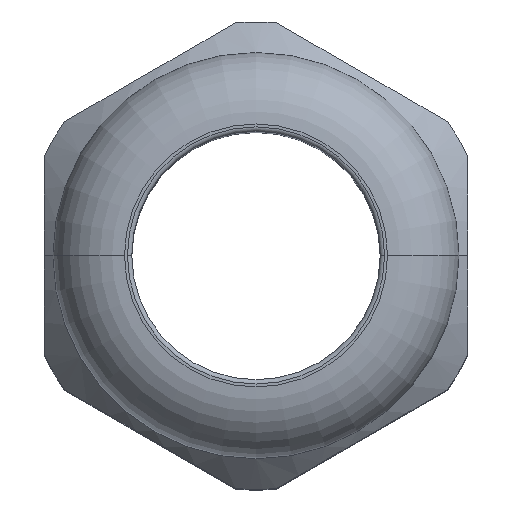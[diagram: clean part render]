
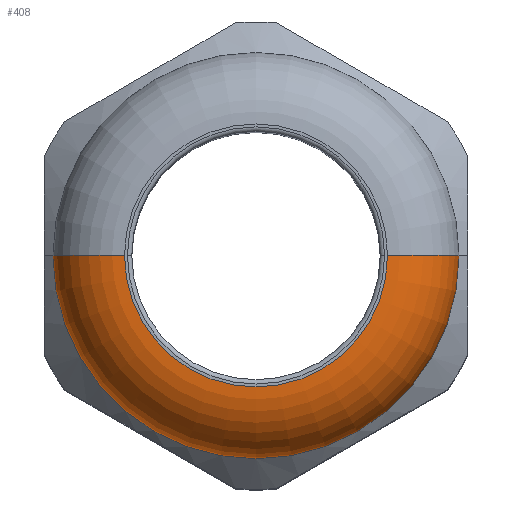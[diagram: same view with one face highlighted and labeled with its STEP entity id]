
A CAD part, top view. The second image highlights one B-rep face of the part: STEP entity #408.
In plain terms, the highlighted toroidal (fillet/blend) face has major radius 9 mm and minor radius 4.9 mm.
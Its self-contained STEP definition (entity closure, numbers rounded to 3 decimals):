
#13 = EDGE_CURVE ( 'NONE', #259, #21, #977, .T. ) ;
#17 = VERTEX_POINT ( 'NONE', #965 ) ;
#21 = VERTEX_POINT ( 'NONE', #1005 ) ;
#35 = VERTEX_POINT ( 'NONE', #847 ) ;
#259 = VERTEX_POINT ( 'NONE', #1457 ) ;
#298 = EDGE_CURVE ( 'NONE', #35, #17, #1399, .T. ) ;
#371 = EDGE_LOOP ( 'NONE', ( #409, #411, #413, #425 ) ) ;
#374 = EDGE_CURVE ( 'NONE', #21, #17, #1494, .T. ) ;
#408 = ADVANCED_FACE ( 'NONE', ( #1741 ), #1740, .T. ) ;
#409 = ORIENTED_EDGE ( 'NONE', *, *, #13, .F. ) ;
#411 = ORIENTED_EDGE ( 'NONE', *, *, #412, .T. ) ;
#412 = EDGE_CURVE ( 'NONE', #259, #35, #1635, .T. ) ;
#413 = ORIENTED_EDGE ( 'NONE', *, *, #298, .T. ) ;
#425 = ORIENTED_EDGE ( 'NONE', *, *, #374, .F. ) ;
#847 = CARTESIAN_POINT ( 'NONE',  ( -9., 0., 50. ) ) ;
#965 = CARTESIAN_POINT ( 'NONE',  ( -13.9, 0., 45.1 ) ) ;
#973 = DIRECTION ( 'NONE',  ( -1., 0., 0. ) ) ;
#974 = DIRECTION ( 'NONE',  ( 0., 1., 0. ) ) ;
#975 = CARTESIAN_POINT ( 'NONE',  ( 9., 0., 45.1 ) ) ;
#976 = AXIS2_PLACEMENT_3D ( 'NONE', #975, #974, #973 ) ;
#977 = CIRCLE ( 'NONE', #976, 4.9 ) ;
#1005 = CARTESIAN_POINT ( 'NONE',  ( 13.9, 0., 45.1 ) ) ;
#1395 = DIRECTION ( 'NONE',  ( 0., 0., -1. ) ) ;
#1396 = DIRECTION ( 'NONE',  ( 0., -1., 0. ) ) ;
#1397 = CARTESIAN_POINT ( 'NONE',  ( -9., 0., 45.1 ) ) ;
#1398 = AXIS2_PLACEMENT_3D ( 'NONE', #1397, #1396, #1395 ) ;
#1399 = CIRCLE ( 'NONE', #1398, 4.9 ) ;
#1457 = CARTESIAN_POINT ( 'NONE',  ( 9., 0., 50. ) ) ;
#1491 = DIRECTION ( 'NONE',  ( -1., 0., 0. ) ) ;
#1492 = DIRECTION ( 'NONE',  ( 0., 0., -1. ) ) ;
#1493 = AXIS2_PLACEMENT_3D ( 'NONE', #1496, #1492, #1491 ) ;
#1494 = CIRCLE ( 'NONE', #1493, 13.9 ) ;
#1496 = CARTESIAN_POINT ( 'NONE',  ( 0., 0., 45.1 ) ) ;
#1631 = DIRECTION ( 'NONE',  ( -1., 0., 0. ) ) ;
#1632 = DIRECTION ( 'NONE',  ( 0., 0., -1. ) ) ;
#1633 = CARTESIAN_POINT ( 'NONE',  ( 0., 0., 50. ) ) ;
#1634 = AXIS2_PLACEMENT_3D ( 'NONE', #1633, #1632, #1631 ) ;
#1635 = CIRCLE ( 'NONE', #1634, 9. ) ;
#1636 = DIRECTION ( 'NONE',  ( -1., 0., 0. ) ) ;
#1637 = DIRECTION ( 'NONE',  ( 0., 0., -1. ) ) ;
#1638 = CARTESIAN_POINT ( 'NONE',  ( 0., 0., 45.1 ) ) ;
#1639 = AXIS2_PLACEMENT_3D ( 'NONE', #1638, #1637, #1636 ) ;
#1740 = TOROIDAL_SURFACE ( 'NONE', #1639, 9., 4.9 ) ;
#1741 = FACE_OUTER_BOUND ( 'NONE', #371, .T. ) ;
